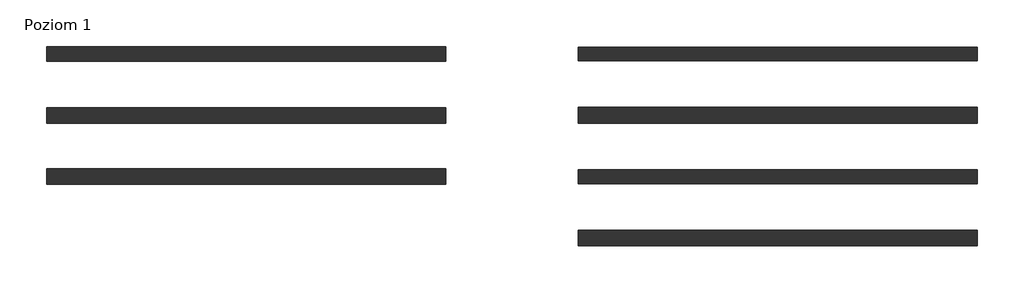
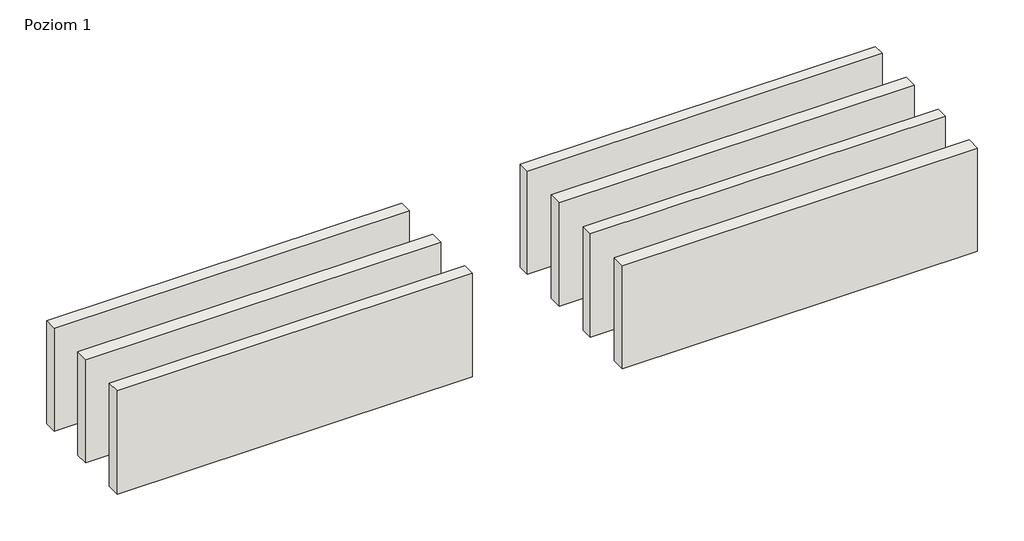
# One storey: 7 walls.
"""IFC4 building model written with IfcOpenShell, lengths in millimetres."""

from ifc_helpers import new_model, si_unit, origin, origin_with_axes, place, context, project, spatial, polyline, outline, extrude, element, save

model = new_model("IFC4")

# Units and contexts
model_context = context("Model", 3, world=origin())
ifc_project = project(units=[si_unit("LENGTHUNIT", "METRE", prefix="MILLI")], contexts=[model_context])

# Site, building, storey
site = spatial("IfcSite", under=ifc_project)
building = spatial("IfcBuilding", under=site)
storey = spatial("IfcBuildingStorey", under=building, Name="Poziom 1", Elevation=0.0)

# Walls
placement = place(None, origin())
element("IfcWall", 1, ObjectType="ISOVER.FW.EQUITONE.Multimax30_180.SILIKAT240.U0,23", at=placement, inside=storey, context=model_context, shape_type="SweptSolid", body=[
    extrude(outline(polyline([(-2759.3845054, -119.7179119), (-15759.3845054, -119.7179119), (-15759.3845054, 363.2820881), (-2759.3845054, 363.2820881), (-2759.3845054, -119.7179119)])), origin_with_axes(), (0.0, 0.0, 1.0), 4000.0),
])
element("IfcWall", 2, ObjectType="ISOVER.FW.EQUITONE.Multimax30_200.SILIKAT240.U0,22", at=placement, inside=storey, context=model_context, shape_type="SweptSolid", body=[
    extrude(outline(polyline([(-2759.3845054, -2129.7179119), (-15759.3845054, -2129.7179119), (-15759.3845054, -1626.7179119), (-2759.3845054, -1626.7179119), (-2759.3845054, -2129.7179119)])), origin_with_axes(), (0.0, 0.0, 1.0), 4000.0),
])
element("IfcWall", 3, ObjectType="ISOVER.FW.EQUITONE.Super-VentPlus_200.SILIKAT240.U0,22", at=placement, inside=storey, context=model_context, shape_type="SweptSolid", body=[
    extrude(outline(polyline([(-2759.3845054, -4129.7179119), (-15759.3845054, -4129.7179119), (-15759.3845054, -3626.7179119), (-2759.3845054, -3626.7179119), (-2759.3845054, -4129.7179119)])), origin_with_axes(), (0.0, 0.0, 1.0), 4000.0),
])
element("IfcWall", 4, ObjectType="ISOVER.FW.EQUITONE.Multimax30_200.ŻELBET180.U0,23", at=placement, inside=storey, context=model_context, shape_type="SweptSolid", body=[
    extrude(outline(polyline([(14574.3183088, -99.7179119), (1574.3183088, -99.7179119), (1574.3183088, 343.2820881), (14574.3183088, 343.2820881), (14574.3183088, -99.7179119)])), origin_with_axes(), (0.0, 0.0, 1.0), 4000.0),
])
element("IfcWall", 5, ObjectType="ISOVER.FW.EQUITONE.Multimax30_200.ŻELBET250.U0,23", at=placement, inside=storey, context=model_context, shape_type="SweptSolid", body=[
    extrude(outline(polyline([(14574.3183088, -2134.7179119), (1574.3183088, -2134.7179119), (1574.3183088, -1621.7179119), (14574.3183088, -1621.7179119), (14574.3183088, -2134.7179119)])), origin_with_axes(), (0.0, 0.0, 1.0), 4000.0),
])
element("IfcWall", 6, ObjectType="ISOVER.FW.EQUITONE.Super-VentPlus_200.ŻELBET180.U0,23", at=placement, inside=storey, context=model_context, shape_type="SweptSolid", body=[
    extrude(outline(polyline([(14574.3183088, -4099.7179119), (1574.3183088, -4099.7179119), (1574.3183088, -3656.7179119), (14574.3183088, -3656.7179119), (14574.3183088, -4099.7179119)])), origin_with_axes(), (0.0, 0.0, 1.0), 4000.0),
])
element("IfcWall", 7, ObjectType="ISOVER.FW.EQUITONE.Super-VentPlus_200.ŻELBET250.U0,23", at=placement, inside=storey, context=model_context, shape_type="SweptSolid", body=[
    extrude(outline(polyline([(14574.3183088, -6134.7179119), (1574.3183088, -6134.7179119), (1574.3183088, -5621.7179119), (14574.3183088, -5621.7179119), (14574.3183088, -6134.7179119)])), origin_with_axes(), (0.0, 0.0, 1.0), 4000.0),
])

save(model, "model.ifc")
